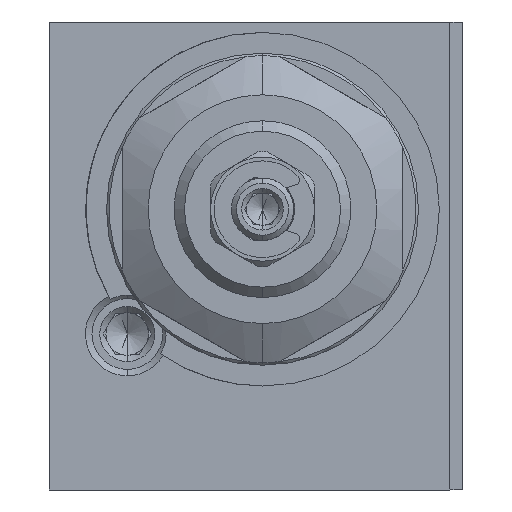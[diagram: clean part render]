
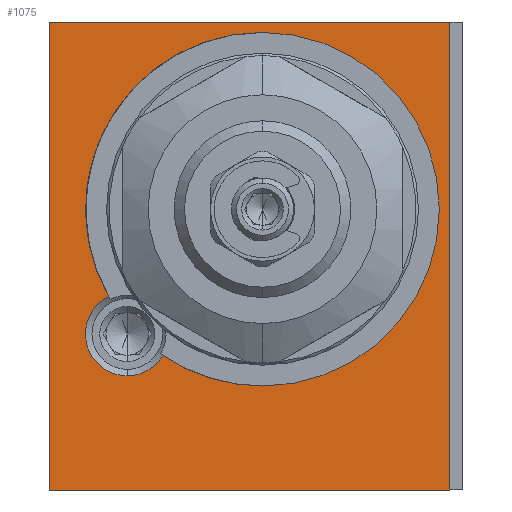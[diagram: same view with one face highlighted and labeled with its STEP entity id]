
A CAD part, left-side view. The second image highlights one B-rep face of the part: STEP entity #1075.
In plain terms, the highlighted planar face has unit normal (-1, 0, 0).
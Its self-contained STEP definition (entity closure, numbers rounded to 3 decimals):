
#290 = CARTESIAN_POINT ( 'NONE',  ( 0., 19.25, -22.5 ) ) ;
#1075 = ADVANCED_FACE ( 'NONE', ( #16384, #16408 ), #7404, .T. ) ;
#2204 = DIRECTION ( 'NONE',  ( -1., 0., 0. ) ) ;
#3299 = CARTESIAN_POINT ( 'NONE',  ( 0., -1.25, 21.5 ) ) ;
#3475 = EDGE_LOOP ( 'NONE', ( #16457, #16292, #16271, #16199, #16158 ) ) ;
#3706 = AXIS2_PLACEMENT_3D ( 'NONE', #7146, #7119, #7115 ) ;
#4466 = VERTEX_POINT ( 'NONE', #8348 ) ;
#4561 = VERTEX_POINT ( 'NONE', #5088 ) ;
#5088 = CARTESIAN_POINT ( 'NONE',  ( 0., -1.25, -12.5 ) ) ;
#5554 = CARTESIAN_POINT ( 'NONE',  ( 0., -1.25, 4.5 ) ) ;
#5667 = CARTESIAN_POINT ( 'NONE',  ( 0., 11.75, -11.525 ) ) ;
#7115 = DIRECTION ( 'NONE',  ( 0., 0., 1. ) ) ;
#7119 = DIRECTION ( 'NONE',  ( -1., 0., 0. ) ) ;
#7146 = CARTESIAN_POINT ( 'NONE',  ( 0., 19.25, -22.5 ) ) ;
#7404 = PLANE ( 'NONE',  #3706 ) ;
#7633 = VECTOR ( 'NONE', #23146, 1000. ) ;
#7654 = LINE ( 'NONE', #9238, #21605 ) ;
#8348 = CARTESIAN_POINT ( 'NONE',  ( 0., 13.534, -3.892 ) ) ;
#8888 = CARTESIAN_POINT ( 'NONE',  ( 0., -19.25, -22.5 ) ) ;
#9183 = VERTEX_POINT ( 'NONE', #20616 ) ;
#9238 = CARTESIAN_POINT ( 'NONE',  ( 0., -19.25, 22.5 ) ) ;
#9364 = VERTEX_POINT ( 'NONE', #5667 ) ;
#9439 = DIRECTION ( 'NONE',  ( 0., 0., 1. ) ) ;
#10609 = CARTESIAN_POINT ( 'NONE',  ( 0., -1.25, 4.5 ) ) ;
#10843 = CARTESIAN_POINT ( 'NONE',  ( 0., -19.25, 22.5 ) ) ;
#10893 = DIRECTION ( 'NONE',  ( 0., 0., -1. ) ) ;
#10944 = DIRECTION ( 'NONE',  ( 0., 0., 1. ) ) ;
#11037 = DIRECTION ( 'NONE',  ( -1., 0., 0. ) ) ;
#11654 = CARTESIAN_POINT ( 'NONE',  ( 0., 11.75, -7.5 ) ) ;
#12570 = DIRECTION ( 'NONE',  ( -1., 0., 0. ) ) ;
#12588 = CIRCLE ( 'NONE', #14646, 4.025 ) ;
#12778 = AXIS2_PLACEMENT_3D ( 'NONE', #24626, #24621, #24600 ) ;
#13085 = AXIS2_PLACEMENT_3D ( 'NONE', #5554, #23139, #9439 ) ;
#13237 = CARTESIAN_POINT ( 'NONE',  ( 0., 19.25, 22.5 ) ) ;
#14116 = CARTESIAN_POINT ( 'NONE',  ( 0., 11.75, -7.5 ) ) ;
#14527 = VERTEX_POINT ( 'NONE', #8888 ) ;
#14646 = AXIS2_PLACEMENT_3D ( 'NONE', #14116, #2204, #16103 ) ;
#15852 = ORIENTED_EDGE ( 'NONE', *, *, #19289, .F. ) ;
#15988 = ORIENTED_EDGE ( 'NONE', *, *, #19022, .F. ) ;
#16009 = ORIENTED_EDGE ( 'NONE', *, *, #19285, .F. ) ;
#16103 = DIRECTION ( 'NONE',  ( 0., 0., 1. ) ) ;
#16150 = ORIENTED_EDGE ( 'NONE', *, *, #19283, .F. ) ;
#16158 = ORIENTED_EDGE ( 'NONE', *, *, #20190, .F. ) ;
#16199 = ORIENTED_EDGE ( 'NONE', *, *, #19262, .F. ) ;
#16271 = ORIENTED_EDGE ( 'NONE', *, *, #20701, .F. ) ;
#16292 = ORIENTED_EDGE ( 'NONE', *, *, #20794, .F. ) ;
#16384 = FACE_BOUND ( 'NONE', #3475, .T. ) ;
#16408 = FACE_OUTER_BOUND ( 'NONE', #24817, .T. ) ;
#16457 = ORIENTED_EDGE ( 'NONE', *, *, #19259, .F. ) ;
#17145 = VERTEX_POINT ( 'NONE', #3299 ) ;
#18472 = LINE ( 'NONE', #21924, #21558 ) ;
#18546 = LINE ( 'NONE', #23121, #7633 ) ;
#18678 = AXIS2_PLACEMENT_3D ( 'NONE', #10609, #12570, #23673 ) ;
#18720 = CIRCLE ( 'NONE', #18746, 4.025 ) ;
#18746 = AXIS2_PLACEMENT_3D ( 'NONE', #11654, #11037, #10944 ) ;
#18764 = CIRCLE ( 'NONE', #18678, 17. ) ;
#18822 = DIRECTION ( 'NONE',  ( 0., -1., 0. ) ) ;
#18923 = VERTEX_POINT ( 'NONE', #10843 ) ;
#18958 = CARTESIAN_POINT ( 'NONE',  ( 0., -19.25, 22.5 ) ) ;
#19022 = EDGE_CURVE ( 'NONE', #20032, #18923, #21996, .T. ) ;
#19259 = EDGE_CURVE ( 'NONE', #4466, #9364, #18720, .T. ) ;
#19262 = EDGE_CURVE ( 'NONE', #9183, #4561, #18764, .T. ) ;
#19283 = EDGE_CURVE ( 'NONE', #14527, #22513, #18546, .T. ) ;
#19285 = EDGE_CURVE ( 'NONE', #18923, #14527, #7654, .T. ) ;
#19289 = EDGE_CURVE ( 'NONE', #22513, #20032, #18472, .T. ) ;
#20032 = VERTEX_POINT ( 'NONE', #13237 ) ;
#20190 = EDGE_CURVE ( 'NONE', #9364, #9183, #12588, .T. ) ;
#20616 = CARTESIAN_POINT ( 'NONE',  ( 0., 8.296, -9.567 ) ) ;
#20701 = EDGE_CURVE ( 'NONE', #4561, #17145, #24354, .T. ) ;
#20794 = EDGE_CURVE ( 'NONE', #17145, #4466, #23361, .T. ) ;
#21454 = DIRECTION ( 'NONE',  ( 0., 0., 1. ) ) ;
#21558 = VECTOR ( 'NONE', #21454, 1000. ) ;
#21605 = VECTOR ( 'NONE', #10893, 1000. ) ;
#21836 = VECTOR ( 'NONE', #18822, 1000. ) ;
#21924 = CARTESIAN_POINT ( 'NONE',  ( 0., 19.25, 22.5 ) ) ;
#21996 = LINE ( 'NONE', #18958, #21836 ) ;
#22513 = VERTEX_POINT ( 'NONE', #290 ) ;
#23121 = CARTESIAN_POINT ( 'NONE',  ( 0., -19.25, -22.5 ) ) ;
#23139 = DIRECTION ( 'NONE',  ( -1., 0., 0. ) ) ;
#23146 = DIRECTION ( 'NONE',  ( 0., 1., 0. ) ) ;
#23361 = CIRCLE ( 'NONE', #12778, 17. ) ;
#23673 = DIRECTION ( 'NONE',  ( 0., 0., 1. ) ) ;
#24354 = CIRCLE ( 'NONE', #13085, 17. ) ;
#24600 = DIRECTION ( 'NONE',  ( 0., 0., 1. ) ) ;
#24621 = DIRECTION ( 'NONE',  ( -1., 0., 0. ) ) ;
#24626 = CARTESIAN_POINT ( 'NONE',  ( 0., -1.25, 4.5 ) ) ;
#24817 = EDGE_LOOP ( 'NONE', ( #16150, #16009, #15988, #15852 ) ) ;
